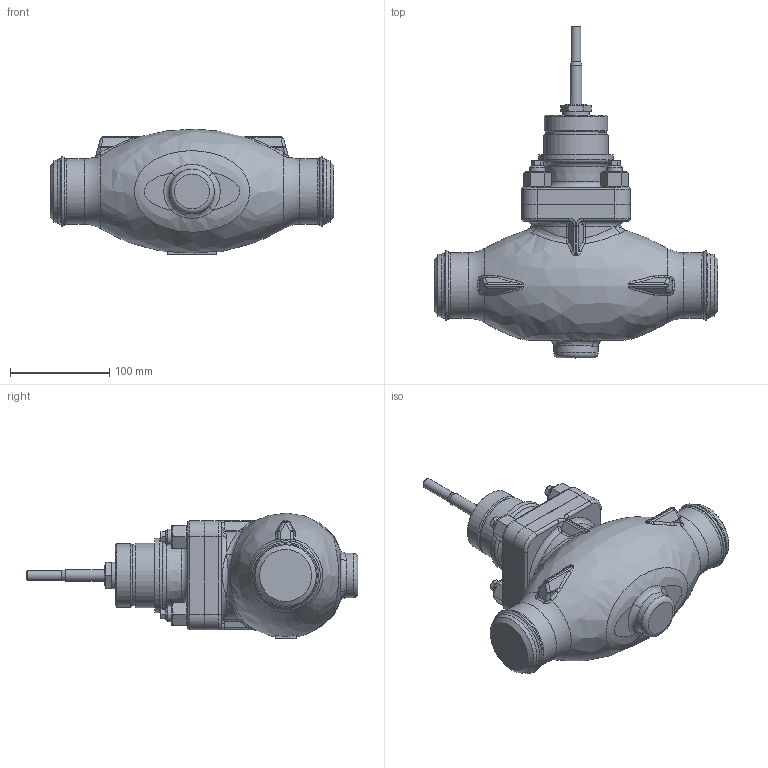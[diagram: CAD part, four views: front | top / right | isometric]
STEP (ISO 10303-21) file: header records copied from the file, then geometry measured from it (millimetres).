
FILE_DESCRIPTION(/* description */ (''),/* implementation_level */ '2;1');
FILE_NAME(/* name */ 'CV3xx_NPS_2_privarovaci.stp',/* time_stamp */ '2014-01-07T07:00:33+01:00',/* author */ (''),/* organization */ ('LDM'),/* preprocessor_version */ 'ST-DEVELOPER v11',/* originating_system */ 'SIEMENS PLM Software NX 7.0',/* authorisation */ '');
FILE_SCHEMA (('CONFIG_CONTROL_DESIGN'));
Length unit declared in the file: millimetre
Products named in the file (1): adamED63yszo
Bounding box: 286 x 335 x 126.94 mm (x, y, z)
Volume: 2892544 mm3; surface area: 162462.3 mm2
Topology: 1 solids, 5 shells, 414 faces, 954 edges, 557 vertices
Faces by surface type: plane 121, cone 104, cylinder 86, bspline 78, torus 25
Full cylindrical faces by diameter (mm): 10 x1, 12 x1, 16 x12, 21 x1, 24 x8, 27 x1, 45 x1, 61.6 x1, 64 x1, 65 x1, 66 x2, 70 x2, 75 x1, 86 x1
Entity records: 12843 total; most frequent: CARTESIAN_POINT 4655, ORIENTED_EDGE 1656, DIRECTION 1574, EDGE_CURVE 828, AXIS2_PLACEMENT_3D 686, EDGE_LOOP 524, VERTEX_POINT 518, ADVANCED_FACE 414
